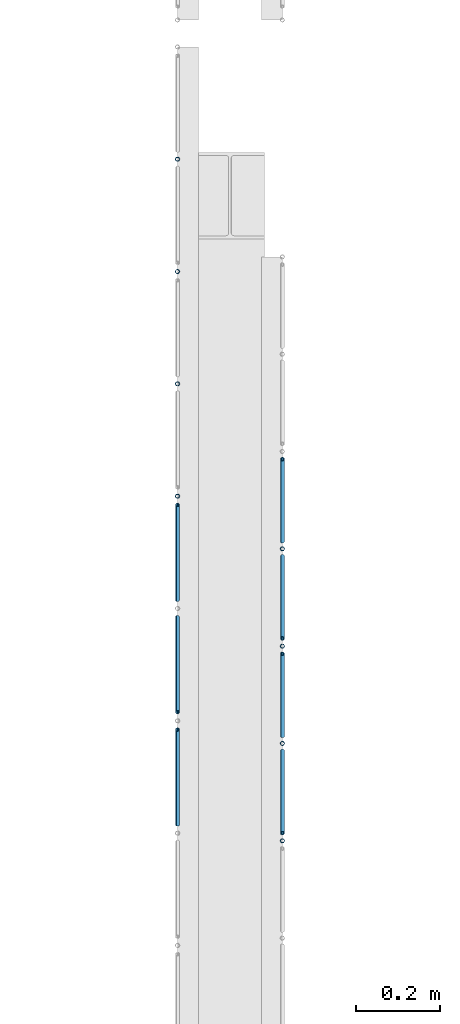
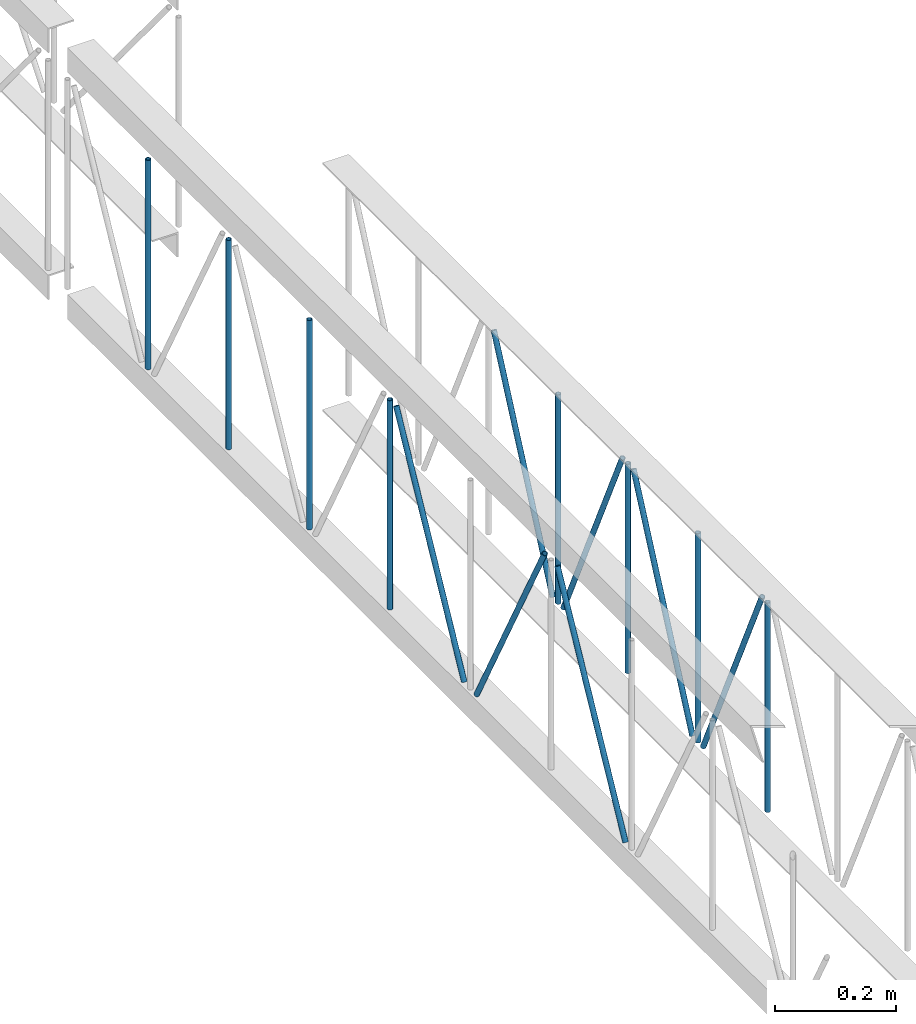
# One storey, part 20 of 153: 15 members, 2 elements without a shape of their own.
"""IFC4 building model written with IfcOpenShell, lengths in metres."""

from ifc_helpers import new_model, entity, si_unit, converted_unit, derived_unit, direction, frame, origin, place, context, subcontext, project, spatial, arc, indexed_curve, outline, extrude, source, transform, mapped, material, type_object, type_shapes, element, aggregate, save


model = new_model("IFC4")

# Units and contexts
model_context = context("Model", 3, precision=1e-05, world=origin(), true_north=direction((6.123031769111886e-17, 1.0)))
body_context = subcontext(model_context, "Body", "Model", "MODEL_VIEW")
ifc_project = project(units=[si_unit("LENGTHUNIT", "METRE"), si_unit("AREAUNIT", "SQUARE_METRE"), si_unit("VOLUMEUNIT", "CUBIC_METRE"), converted_unit("PLANEANGLEUNIT", "DEGREE", entity("IfcRatioMeasure", 0.017453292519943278), si_unit("PLANEANGLEUNIT", "RADIAN"), dimensions=[0, 0, 0, 0, 0, 0, 0]), si_unit("MASSUNIT", "GRAM", prefix="KILO"), derived_unit("MASSDENSITYUNIT", [(si_unit("MASSUNIT", "GRAM", prefix="KILO"), 1), (si_unit("LENGTHUNIT", "METRE"), -3)]), derived_unit("MOMENTOFINERTIAUNIT", [(si_unit("LENGTHUNIT", "METRE"), 4)]), si_unit("TIMEUNIT", "SECOND"), si_unit("FREQUENCYUNIT", "HERTZ"), si_unit("THERMODYNAMICTEMPERATUREUNIT", "DEGREE_CELSIUS"), derived_unit("THERMALTRANSMITTANCEUNIT", [(si_unit("MASSUNIT", "GRAM", prefix="KILO"), 1), (si_unit("THERMODYNAMICTEMPERATUREUNIT", "KELVIN"), -1), (si_unit("TIMEUNIT", "SECOND"), -3)]), derived_unit("VOLUMETRICFLOWRATEUNIT", [(si_unit("LENGTHUNIT", "METRE"), 3), (si_unit("TIMEUNIT", "SECOND"), -1)]), derived_unit("MASSFLOWRATEUNIT", [(si_unit("MASSUNIT", "GRAM", prefix="KILO"), 1), (si_unit("TIMEUNIT", "SECOND"), -1)]), derived_unit("ROTATIONALFREQUENCYUNIT", [(si_unit("TIMEUNIT", "SECOND"), -1)]), si_unit("ELECTRICCURRENTUNIT", "AMPERE"), si_unit("ELECTRICVOLTAGEUNIT", "VOLT"), si_unit("POWERUNIT", "WATT"), si_unit("FORCEUNIT", "NEWTON", prefix="KILO"), si_unit("ILLUMINANCEUNIT", "LUX"), si_unit("LUMINOUSFLUXUNIT", "LUMEN"), si_unit("LUMINOUSINTENSITYUNIT", "CANDELA"), derived_unit("USERDEFINED", [(si_unit("MASSUNIT", "GRAM", prefix="KILO"), -1), (si_unit("LENGTHUNIT", "METRE"), -2), (si_unit("TIMEUNIT", "SECOND"), 3), (si_unit("LUMINOUSFLUXUNIT", "LUMEN"), 1)]), derived_unit("SOUNDPOWERUNIT", [(si_unit("MASSUNIT", "GRAM", prefix="KILO"), 1), (si_unit("LENGTHUNIT", "METRE"), 2), (si_unit("TIMEUNIT", "SECOND"), -3)]), derived_unit("SOUNDPRESSUREUNIT", [(si_unit("MASSUNIT", "GRAM", prefix="KILO"), 1), (si_unit("LENGTHUNIT", "METRE"), -1), (si_unit("TIMEUNIT", "SECOND"), -2)]), derived_unit("LINEARVELOCITYUNIT", [(si_unit("LENGTHUNIT", "METRE"), 1), (si_unit("TIMEUNIT", "SECOND"), -1)]), si_unit("PRESSUREUNIT", "PASCAL"), derived_unit("USERDEFINED", [(si_unit("LENGTHUNIT", "METRE"), -2), (si_unit("MASSUNIT", "GRAM", prefix="KILO"), 1), (si_unit("TIMEUNIT", "SECOND"), -2)]), derived_unit("LINEARFORCEUNIT", [(si_unit("MASSUNIT", "GRAM", prefix="KILO"), 1), (si_unit("LENGTHUNIT", "METRE"), 1), (si_unit("TIMEUNIT", "SECOND"), -2), (si_unit("LENGTHUNIT", "METRE"), -1)]), derived_unit("PLANARFORCEUNIT", [(si_unit("MASSUNIT", "GRAM", prefix="KILO"), 1), (si_unit("LENGTHUNIT", "METRE"), 1), (si_unit("TIMEUNIT", "SECOND"), -2), (si_unit("LENGTHUNIT", "METRE"), -2)])], contexts=[model_context])

# Site, building, storey
site_placement = place(None, origin())
site = spatial("IfcSite", under=ifc_project, at=site_placement, Name="Superficie", CompositionType="ELEMENT")
building_placement = place(site_placement, origin())
building = spatial("IfcBuilding", under=site, at=building_placement, CompositionType="ELEMENT")
storey_placement = place(building_placement, frame((0.0, 0.0, 3.5999999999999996)))
storey = spatial("IfcBuildingStorey", under=building, at=storey_placement, Name="Nivel 1", CompositionType="ELEMENT", Elevation=3.5999999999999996)

# Assembly, members
assembly_1_placement = place(storey_placement, origin())
assembly_1 = element("IfcElementAssembly", 1, at=assembly_1_placement, inside=storey, Name="Viga de celosia 13:Viga de celosia 13", ObjectType="Viga de celosia 13:Viga de celosia 13", AssemblyPlace="NOTDEFINED", PredefinedType="TRUSS")
ifc_material = material(Name="Metal - Calibre delgado", Category="Metal")
member_type_1 = type_object("IfcMemberType", Name="HSS-Tubo estructural redondo:HSS 0.01", PredefinedType="BRACE", material=ifc_material)
shared_shape_1 = source(origin(), body_context, "Body", "SweptSolid", [
    extrude(outline(indexed_curve([(-0.005000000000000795, 7.502054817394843e-18), (-9.800269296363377e-18, -0.005000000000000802), (0.005000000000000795, -7.502054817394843e-18), (8.07772287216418e-18, 0.005000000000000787)], segments=[arc(1, 2, 3), arc(3, 4, 1)], self_intersect=False), holes=[indexed_curve([(0.003999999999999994, 7.222511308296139e-17), (6.910645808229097e-17, -0.004000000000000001), (-0.003999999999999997, -1.8650054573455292e-17), (-2.9156497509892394e-17, 0.003999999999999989)], segments=[arc(1, 2, 3), arc(3, 4, 1)], self_intersect=False)]), frame((-0.21200000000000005, 0.0, 0.0), z_axis=(1.0, 0.0, 0.0), x_axis=(0.0, 1.0, 0.0)), (0.0, 0.0, 1.0), 0.4240000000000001),
])
type_shapes(member_type_1, [shared_shape_1])
member_1_placement = place(assembly_1_placement, frame((-13.813200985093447, -10.268502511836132, 0.25), z_axis=(0.0, 1.0, 0.0), x_axis=(0.0, 0.0, 1.0)))
member_1 = element("IfcMember", 2, at=member_1_placement, type_object=member_type_1, material=ifc_material, Name="HSS-Tubo estructural redondo:HSS 0.01", ObjectType="HSS-Tubo estructural redondo:HSS 0.01", PredefinedType="BRACE", context=body_context, shape_type="MappedRepresentation", body=[
    mapped(shared_shape_1, transform((0.0, 0.0, 0.0), scale=1.0)),
])
member_2_placement = place(assembly_1_placement, frame((-13.813200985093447, -10.001002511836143, 0.25), z_axis=(0.0, 1.0, 0.0), x_axis=(0.0, 0.0, 1.0)))
member_2 = element("IfcMember", 3, at=member_2_placement, type_object=member_type_1, material=ifc_material, Name="HSS-Tubo estructural redondo:HSS 0.01", ObjectType="HSS-Tubo estructural redondo:HSS 0.01", PredefinedType="BRACE", context=body_context, shape_type="MappedRepresentation", body=[
    mapped(shared_shape_1, transform((0.0, 0.0, 0.0), scale=1.0)),
])
member_3_placement = place(assembly_1_placement, frame((-13.813200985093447, -9.733502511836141, 0.25), z_axis=(0.0, 1.0, 0.0), x_axis=(0.0, 0.0, 1.0)))
member_3 = element("IfcMember", 4, at=member_3_placement, type_object=member_type_1, material=ifc_material, Name="HSS-Tubo estructural redondo:HSS 0.01", ObjectType="HSS-Tubo estructural redondo:HSS 0.01", PredefinedType="BRACE", context=body_context, shape_type="MappedRepresentation", body=[
    mapped(shared_shape_1, transform((0.0, 0.0, 0.0), scale=1.0)),
])
member_4_placement = place(assembly_1_placement, frame((-13.813200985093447, -9.46600251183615, 0.25), z_axis=(0.0, 1.0, 0.0), x_axis=(0.0, 0.0, 1.0)))
member_4 = element("IfcMember", 5, at=member_4_placement, type_object=member_type_1, material=ifc_material, Name="HSS-Tubo estructural redondo:HSS 0.01", ObjectType="HSS-Tubo estructural redondo:HSS 0.01", PredefinedType="BRACE", context=body_context, shape_type="MappedRepresentation", body=[
    mapped(shared_shape_1, transform((0.0, 0.0, 0.0), scale=1.0)),
])

assembly_2_placement = place(storey_placement, origin())
assembly_2 = element("IfcElementAssembly", 6, at=assembly_2_placement, inside=storey, Name="Viga de celosia 13:Viga de celosia 13", ObjectType="Viga de celosia 13:Viga de celosia 13", AssemblyPlace="NOTDEFINED", PredefinedType="TRUSS")
member_type_2 = type_object("IfcMemberType", Name="HSS-Tubo estructural redondo:HSS 0.01", PredefinedType="BRACE", material=ifc_material)
shared_shape_2 = source(origin(), body_context, "Body", "SweptSolid", [
    extrude(outline(indexed_curve([(-0.005000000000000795, 2.0824731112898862e-17), (-2.3122945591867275e-17, -0.005000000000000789), (0.005000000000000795, -2.08247311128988e-17), (2.14003991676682e-17, 0.005000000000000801)], segments=[arc(1, 2, 3), arc(3, 4, 1)], self_intersect=False), holes=[indexed_curve([(0.003999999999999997, -1.3094283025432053e-17), (-1.531427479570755e-18, -0.003999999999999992), (-0.004, 4.0098531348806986e-17), (4.1481388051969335e-17, 0.0039999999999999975)], segments=[arc(1, 2, 3), arc(3, 4, 1)], self_intersect=False)]), frame((-0.21200000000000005, 0.0, 0.0), z_axis=(1.0, 0.0, 0.0), x_axis=(0.0, -1.0, 0.0)), (0.0, 0.0, 1.0), 0.4240000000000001),
])
type_shapes(member_type_2, [shared_shape_2])
member_5_placement = place(assembly_2_placement, frame((-13.563200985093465, -11.089216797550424, 0.25), z_axis=(0.0, 1.0, 0.0), x_axis=(0.0, 0.0, 1.0)))
member_5 = element("IfcMember", 7, at=member_5_placement, type_object=member_type_2, material=ifc_material, Name="HSS-Tubo estructural redondo:HSS 0.01", ObjectType="HSS-Tubo estructural redondo:HSS 0.01", PredefinedType="BRACE", context=body_context, shape_type="MappedRepresentation", body=[
    mapped(shared_shape_2, transform((0.0, 0.0, 0.0), scale=1.0)),
])
member_6_placement = place(assembly_2_placement, frame((-13.563200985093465, -10.857431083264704, 0.25), z_axis=(0.0, 1.0, 0.0), x_axis=(0.0, 0.0, 1.0)))
member_6 = element("IfcMember", 8, at=member_6_placement, type_object=member_type_2, material=ifc_material, Name="HSS-Tubo estructural redondo:HSS 0.01", ObjectType="HSS-Tubo estructural redondo:HSS 0.01", PredefinedType="BRACE", context=body_context, shape_type="MappedRepresentation", body=[
    mapped(shared_shape_2, transform((0.0, 0.0, 0.0), scale=1.0)),
])
member_7_placement = place(assembly_2_placement, frame((-13.563200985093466, -10.625645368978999, 0.25), z_axis=(0.0, 1.0, 0.0), x_axis=(0.0, 0.0, 1.0)))
member_7 = element("IfcMember", 9, at=member_7_placement, type_object=member_type_2, material=ifc_material, Name="HSS-Tubo estructural redondo:HSS 0.01", ObjectType="HSS-Tubo estructural redondo:HSS 0.01", PredefinedType="BRACE", context=body_context, shape_type="MappedRepresentation", body=[
    mapped(shared_shape_2, transform((0.0, 0.0, 0.0), scale=1.0)),
])
member_8_placement = place(assembly_2_placement, frame((-13.563200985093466, -10.393859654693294, 0.25), z_axis=(0.0, 1.0, 0.0), x_axis=(0.0, 0.0, 1.0)))
member_8 = element("IfcMember", 10, at=member_8_placement, type_object=member_type_2, material=ifc_material, Name="HSS-Tubo estructural redondo:HSS 0.01", ObjectType="HSS-Tubo estructural redondo:HSS 0.01", PredefinedType="BRACE", context=body_context, shape_type="MappedRepresentation", body=[
    mapped(shared_shape_2, transform((0.0, 0.0, 0.0), scale=1.0)),
])

# Member
member_type_3 = type_object("IfcMemberType", Name="HSS-Tubo estructural redondo:HSS 0.01", PredefinedType="BRACE", material=ifc_material)
shared_shape_3 = source(origin(), body_context, "Body", "SweptSolid", [
    extrude(outline(indexed_curve([(-0.005000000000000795, 7.502054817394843e-18), (-9.800269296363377e-18, -0.005000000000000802), (0.005000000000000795, -7.502054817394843e-18), (8.07772287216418e-18, 0.005000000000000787)], segments=[arc(1, 2, 3), arc(3, 4, 1)], self_intersect=False), holes=[indexed_curve([(0.003999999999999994, 7.222511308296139e-17), (6.910645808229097e-17, -0.004000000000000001), (-0.003999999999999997, -1.8650054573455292e-17), (-2.9156497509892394e-17, 0.003999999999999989)], segments=[arc(1, 2, 3), arc(3, 4, 1)], self_intersect=False)]), frame((-0.23950000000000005, 0.0, 0.0), z_axis=(1.0, 0.0, 0.0), x_axis=(0.0, 1.0, 0.0)), (0.0, 0.0, 1.0), 0.4790000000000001),
])
type_shapes(member_type_3, [shared_shape_3])
member_9_placement = place(assembly_1_placement, frame((-13.813200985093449, -10.937252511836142, 0.25), z_axis=(0.0, 0.8817419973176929, -0.4717319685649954), x_axis=(0.0, 0.4717319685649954, 0.8817419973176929)))
member_9 = element("IfcMember", 11, at=member_9_placement, type_object=member_type_3, material=ifc_material, Name="HSS-Tubo estructural redondo:HSS 0.01", ObjectType="HSS-Tubo estructural redondo:HSS 0.01", PredefinedType="BRACE", context=body_context, shape_type="MappedRepresentation", body=[
    mapped(shared_shape_3, transform((0.0, 0.0, 0.0), scale=1.0)),
])

member_10_placement = place(assembly_1_placement, frame((-13.813200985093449, -10.669752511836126, 0.25), z_axis=(0.0, -0.8817419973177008, -0.4717319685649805), x_axis=(0.0, 0.4717319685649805, -0.8817419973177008)))
member_10 = element("IfcMember", 12, at=member_10_placement, type_object=member_type_3, material=ifc_material, Name="HSS-Tubo estructural redondo:HSS 0.01", ObjectType="HSS-Tubo estructural redondo:HSS 0.01", PredefinedType="BRACE", context=body_context, shape_type="MappedRepresentation", body=[
    mapped(shared_shape_3, transform((0.0, 0.0, 0.0), scale=1.0)),
])

member_11_placement = place(assembly_1_placement, frame((-13.813200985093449, -10.402252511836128, 0.2499999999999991), z_axis=(0.0, 0.8817419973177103, -0.47173196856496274), x_axis=(0.0, 0.47173196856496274, 0.8817419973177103)))
member_11 = element("IfcMember", 13, at=member_11_placement, type_object=member_type_3, material=ifc_material, Name="HSS-Tubo estructural redondo:HSS 0.01", ObjectType="HSS-Tubo estructural redondo:HSS 0.01", PredefinedType="BRACE", context=body_context, shape_type="MappedRepresentation", body=[
    mapped(shared_shape_3, transform((0.0, 0.0, 0.0), scale=1.0)),
])

aggregate(assembly_1, [member_1, member_2, member_3, member_4, member_9, member_10, member_11])

member_type_4 = type_object("IfcMemberType", Name="HSS-Tubo estructural redondo:HSS 0.01", PredefinedType="BRACE", material=ifc_material)
shared_shape_4 = source(origin(), body_context, "Body", "SweptSolid", [
    extrude(outline(indexed_curve([(-0.005000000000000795, 2.0824731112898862e-17), (-2.3122945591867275e-17, -0.005000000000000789), (0.005000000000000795, -2.08247311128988e-17), (2.14003991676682e-17, 0.005000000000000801)], segments=[arc(1, 2, 3), arc(3, 4, 1)], self_intersect=False), holes=[indexed_curve([(0.003999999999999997, -1.3094283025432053e-17), (-1.531427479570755e-18, -0.003999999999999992), (-0.004, 4.0098531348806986e-17), (4.1481388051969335e-17, 0.0039999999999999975)], segments=[arc(1, 2, 3), arc(3, 4, 1)], self_intersect=False)]), frame((-0.2325, 0.0, 0.0), z_axis=(1.0, 0.0, 0.0), x_axis=(0.0, -1.0, 0.0)), (0.0, 0.0, 1.0), 0.465),
])
type_shapes(member_type_4, [shared_shape_4])
member_12_placement = place(assembly_2_placement, frame((-13.563200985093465, -10.973323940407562, 0.25), z_axis=(0.0, -0.9072563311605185, -0.4205781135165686), x_axis=(0.0, 0.4205781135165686, -0.9072563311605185)))
member_12 = element("IfcMember", 14, at=member_12_placement, type_object=member_type_4, material=ifc_material, Name="HSS-Tubo estructural redondo:HSS 0.01", ObjectType="HSS-Tubo estructural redondo:HSS 0.01", PredefinedType="BRACE", context=body_context, shape_type="MappedRepresentation", body=[
    mapped(shared_shape_4, transform((0.0, 0.0, 0.0), scale=1.0)),
])

member_13_placement = place(assembly_2_placement, frame((-13.563200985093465, -10.74153822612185, 0.25000000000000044), z_axis=(0.0, 0.9072563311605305, -0.42057811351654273), x_axis=(0.0, 0.42057811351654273, 0.9072563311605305)))
member_13 = element("IfcMember", 15, at=member_13_placement, type_object=member_type_4, material=ifc_material, Name="HSS-Tubo estructural redondo:HSS 0.01", ObjectType="HSS-Tubo estructural redondo:HSS 0.01", PredefinedType="BRACE", context=body_context, shape_type="MappedRepresentation", body=[
    mapped(shared_shape_4, transform((0.0, 0.0, 0.0), scale=1.0)),
])

member_14_placement = place(assembly_2_placement, frame((-13.563200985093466, -10.509752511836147, 0.25000000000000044), z_axis=(0.0, -0.9072563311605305, -0.42057811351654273), x_axis=(0.0, 0.42057811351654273, -0.9072563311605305)))
member_14 = element("IfcMember", 16, at=member_14_placement, type_object=member_type_4, material=ifc_material, Name="HSS-Tubo estructural redondo:HSS 0.01", ObjectType="HSS-Tubo estructural redondo:HSS 0.01", PredefinedType="BRACE", context=body_context, shape_type="MappedRepresentation", body=[
    mapped(shared_shape_4, transform((0.0, 0.0, 0.0), scale=1.0)),
])

member_15_placement = place(assembly_2_placement, frame((-13.563200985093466, -10.27796679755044, 0.25000000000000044), z_axis=(0.0, 0.907256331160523, -0.4205781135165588), x_axis=(0.0, 0.4205781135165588, 0.907256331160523)))
member_15 = element("IfcMember", 17, at=member_15_placement, type_object=member_type_4, material=ifc_material, Name="HSS-Tubo estructural redondo:HSS 0.01", ObjectType="HSS-Tubo estructural redondo:HSS 0.01", PredefinedType="BRACE", context=body_context, shape_type="MappedRepresentation", body=[
    mapped(shared_shape_4, transform((0.0, 0.0, 0.0), scale=1.0)),
])

aggregate(assembly_2, [member_5, member_6, member_7, member_8, member_12, member_13, member_14, member_15])

save(model, "model.ifc")
